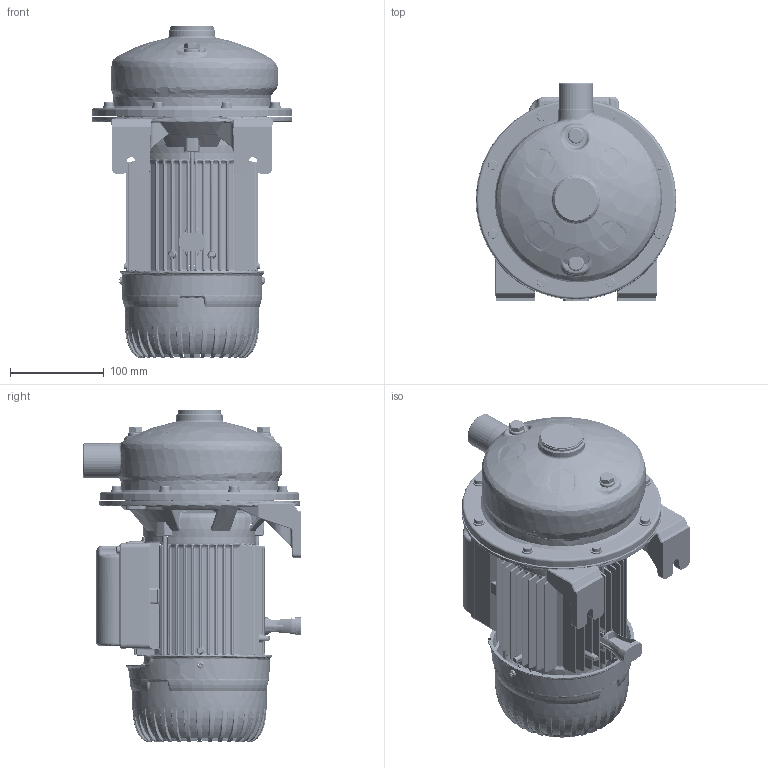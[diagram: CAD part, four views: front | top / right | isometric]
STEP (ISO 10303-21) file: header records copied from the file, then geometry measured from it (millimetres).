
FILE_DESCRIPTION((''),'2;1');
FILE_NAME('60173607_SH','2016-05-03T',('ABO'),(''),'PRO/ENGINEER BY PARAMETRIC TECHNOLOGY CORPORATION, 2014090','PRO/ENGINEER BY PARAMETRIC TECHNOLOGY CORPORATION, 2014090','');
FILE_SCHEMA(('CONFIG_CONTROL_DESIGN'));
Products named in the file (1): 60173607_SH
Bounding box: 214 x 232 x 354.3 mm (x, y, z)
Surface area: 538907 mm2 (no closed solid volume)
Topology: 0 solids, 77 shells, 4815 faces, 13050 edges, 7900 vertices
Faces by surface type: bspline 2472, cylinder 753, plane 543, torus 497, cone 288, sphere 156, revolution 84, extrusion 22
Entity records: 272726 total; most frequent: CARTESIAN_POINT 175283, ORIENTED_EDGE 23082, DIRECTION 14569, EDGE_CURVE 12967, VERTEX_POINT 7900, B_SPLINE_CURVE_WITH_KNOTS 7056, AXIS2_PLACEMENT_3D 6209, EDGE_LOOP 4815
